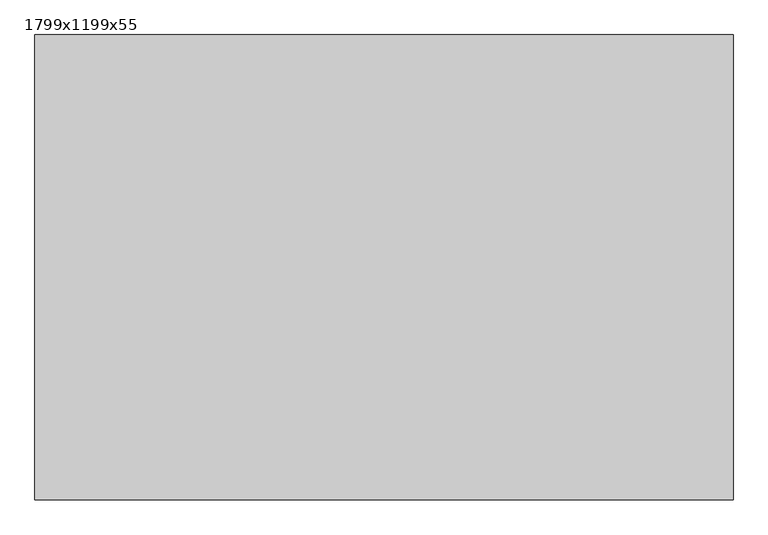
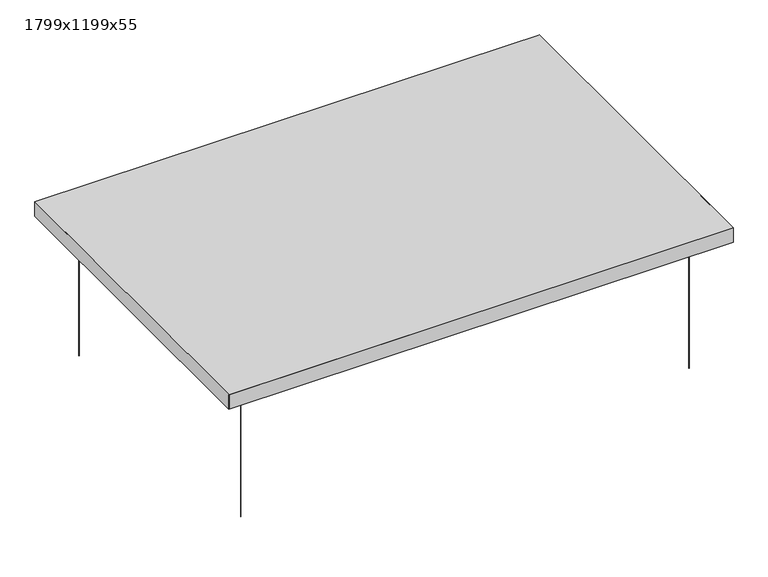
"""IFC4 building model written with IfcOpenShell, lengths in millimetres: proxy geometry, Texaa Panneaux_acoustiques Stereo suspendus_séparés : 1799x1199x55."""

from ifc_helpers import new_model, si_unit, point, frame, frame_2d, origin, origin_with_axes, place, context, project, spatial, polyline, circle_curve, trimmed, segment, composite_curve, outline, extrude, faceted_brep, source, transform, mapped, element, save


def proxy_1799x1199x55_41cc644f(model_context):
    return source(origin(), model_context, "Body", "SolidModel", [
        extrude(outline(composite_curve([segment(trimmed(circle_curve(frame_2d((-799.5, -499.5)), 0.75), [point((-800.25, -499.5))], [point((-798.75, -499.5))], False, "CARTESIAN"), True, "CONTINUOUS"), segment(trimmed(circle_curve(frame_2d((-799.5, -499.5)), 0.75), [point((-798.75, -499.5))], [point((-800.25, -499.5))], False, "CARTESIAN"), True, "CONTINUOUS")], self_intersect=False)), origin_with_axes(), (0.0, 0.0, 1.0), 500.0),
        extrude(outline(composite_curve([segment(trimmed(circle_curve(frame_2d((799.5, -499.5)), 0.75), [point((798.75, -499.5))], [point((800.25, -499.5))], False, "CARTESIAN"), True, "CONTINUOUS"), segment(trimmed(circle_curve(frame_2d((799.5, -499.5)), 0.75), [point((800.25, -499.5))], [point((798.75, -499.5))], False, "CARTESIAN"), True, "CONTINUOUS")], self_intersect=False)), origin_with_axes(), (0.0, 0.0, 1.0), 500.0),
        extrude(outline(composite_curve([segment(trimmed(circle_curve(frame_2d((799.5, 499.5)), 0.75), [point((798.75, 499.5))], [point((800.25, 499.5))], False, "CARTESIAN"), True, "CONTINUOUS"), segment(trimmed(circle_curve(frame_2d((799.5, 499.5)), 0.75), [point((800.25, 499.5))], [point((798.75, 499.5))], False, "CARTESIAN"), True, "CONTINUOUS")], self_intersect=False)), origin_with_axes(), (0.0, 0.0, 1.0), 500.0),
        extrude(outline(composite_curve([segment(trimmed(circle_curve(frame_2d((-799.5, 499.5)), 0.75), [point((-800.25, 499.5))], [point((-798.75, 499.5))], False, "CARTESIAN"), True, "CONTINUOUS"), segment(trimmed(circle_curve(frame_2d((-799.5, 499.5)), 0.75), [point((-798.75, 499.5))], [point((-800.25, 499.5))], False, "CARTESIAN"), True, "CONTINUOUS")], self_intersect=False)), origin_with_axes(), (0.0, 0.0, 1.0), 500.0),
        extrude(outline(polyline([(-898.5, -598.5), (-898.5, 598.5), (898.5, 598.5), (898.5, -598.5), (-898.5, -598.5)])), frame((0.0, 0.0, 501.0), z_axis=(0.0, 0.0, 1.0), x_axis=(1.0, 0.0, 0.0)), (0.0, 0.0, 1.0), 53.0),
        faceted_brep([(899.5, 599.5, 555.0), (897.6968774, 599.5, 555.0), (800.3282554, 599.5, 555.0), (-899.5, 599.5, 555.0), (-899.5, -533.4038789, 555.0), (-899.5, -598.2982523, 555.0), (-899.5, -599.5, 555.0), (899.5, -599.5, 555.0), (-899.5, -599.5, 500.0), (-899.5, 599.5, 500.0), (899.5, 599.5, 500.0), (899.5, -599.5, 500.0), (-849.5, 549.5, 500.0), (-849.5, -549.5, 500.0), (849.5, -549.5, 500.0), (849.5, 549.5, 500.0), (-899.5, -599.5, 554.0), (899.5, 599.5, 554.0), (849.5, 549.5, 501.0), (-849.5, 549.5, 501.0), (849.5, -549.5, 501.0), (-849.5, -549.5, 501.0), (898.5, -598.5, 554.0), (-897.999583, -598.5, 554.0), (-898.5, -598.5, 554.0), (-898.5, -597.631771, 554.0), (-898.5, -532.7373976, 554.0), (-898.5, 598.5, 554.0), (798.8278384, 598.5, 554.0), (896.1964604, 598.5, 554.0), (897.999583, 598.5, 554.0), (898.5, 598.5, 554.0), (-898.5, -598.5, 501.0), (898.5, -598.5, 501.0), (898.5, 598.5, 501.0), (-898.5, 598.5, 501.0)], [[[0, 1, 2, 3, 4, 5, 6, 7]], [[8, 9, 10, 11], [12, 13, 14, 15]], [[8, 16, 6, 5, 4, 3, 9]], [[9, 3, 2, 1, 0, 17, 10]], [[7, 11, 10, 17, 0]], [[6, 16, 8, 11, 7]], [[12, 15, 18, 19]], [[15, 14, 20, 18]], [[14, 13, 21, 20]], [[19, 21, 13, 12]], [[22, 23, 24, 25, 26, 27, 28, 29, 30, 31]], [[32, 33, 34, 35], [18, 20, 21, 19]], [[35, 27, 26, 25, 24, 32]], [[34, 31, 30, 29, 28, 27, 35]], [[31, 34, 33, 22]], [[32, 24, 23, 22, 33]]]),
    ])


if __name__ == "__main__":
    model = new_model("IFC4")
    model_context = context("Model", 3, world=origin())
    ifc_project = project(units=[si_unit("LENGTHUNIT", "METRE", prefix="MILLI")], contexts=[model_context])
    site = spatial("IfcSite", under=ifc_project)
    building = spatial("IfcBuilding", under=site)
    placement = place(None, origin())
    proxy_1799x1199x55_shape = proxy_1799x1199x55_41cc644f(model_context)
    element("IfcBuildingElementProxy", 1, Name="Texaa Panneaux_acoustiques Stereo suspendus_séparés : 1799x1199x55", ObjectType="Texaa Panneaux_acoustiques Stereo suspendus_séparés : 1799x1199x55", at=placement, inside=building, context=model_context, shape_type="MappedRepresentation", body=[
        mapped(proxy_1799x1199x55_shape, transform((0.0, 0.0, 0.0), x_axis=(1.0, 0.0, 0.0), y_axis=(0.0, 1.0, 0.0), z_axis=(0.0, 0.0, 1.0))),
    ])
    save(model, "model.ifc")
